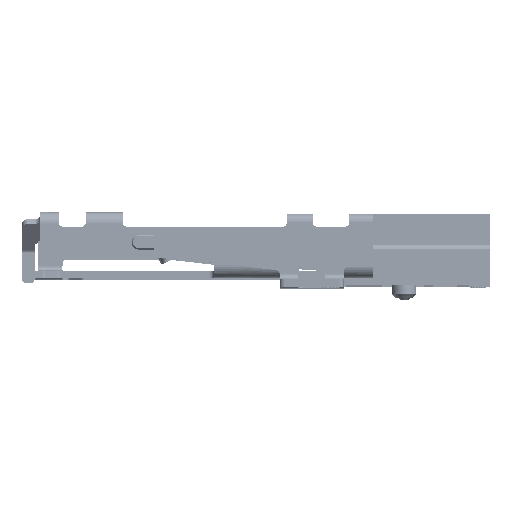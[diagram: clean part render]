
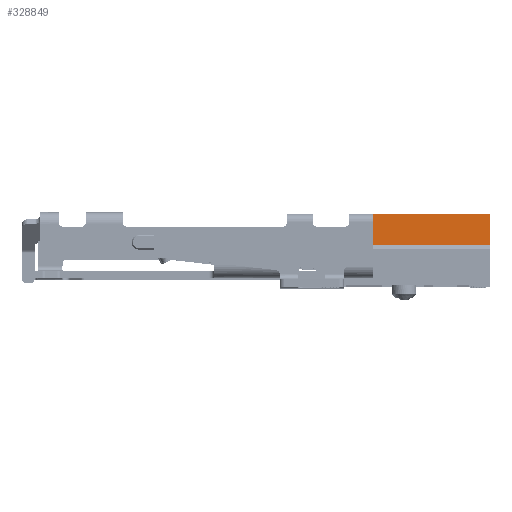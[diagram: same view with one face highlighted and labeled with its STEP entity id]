
A CAD part, top view. The second image highlights one B-rep face of the part: STEP entity #328849.
In plain terms, the highlighted planar face has unit normal (0, 0, 1).
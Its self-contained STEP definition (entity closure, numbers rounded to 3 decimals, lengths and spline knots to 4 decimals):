
#277357=DIRECTION('',(0.,-1.,0.));
#277358=VECTOR('',#277357,1.7);
#277359=CARTESIAN_POINT('',(-5.4,3.9,31.9));
#277360=LINE('',#277359,#277358);
#278549=DIRECTION('',(1.,0.,0.));
#278550=VECTOR('',#278549,6.4);
#278551=CARTESIAN_POINT('',(-5.4,3.9,31.9));
#278552=LINE('',#278551,#278550);
#312637=DIRECTION('',(1.,0.,0.));
#312638=VECTOR('',#312637,6.4);
#312639=CARTESIAN_POINT('',(-5.4,2.2,31.9));
#312640=LINE('',#312639,#312638);
#312641=DIRECTION('',(0.,1.,0.));
#312642=VECTOR('',#312641,1.7);
#312643=CARTESIAN_POINT('',(1.,2.2,31.9));
#312644=LINE('',#312643,#312642);
#315890=CARTESIAN_POINT('',(-5.4,3.9,31.9));
#315891=CARTESIAN_POINT('',(-5.4,2.2,31.9));
#315892=VERTEX_POINT('',#315890);
#315893=VERTEX_POINT('',#315891);
#316484=CARTESIAN_POINT('',(1.,3.9,31.9));
#316485=VERTEX_POINT('',#316484);
#316486=CARTESIAN_POINT('',(1.,2.2,31.9));
#316487=VERTEX_POINT('',#316486);
#328835=CARTESIAN_POINT('',(-2.2,3.05,31.9));
#328836=DIRECTION('',(0.,0.,1.));
#328837=DIRECTION('',(0.,-1.,0.));
#328838=AXIS2_PLACEMENT_3D('',#328835,#328836,#328837);
#328839=PLANE('',#328838);
#328841=ORIENTED_EDGE('',*,*,#328840,.T.);
#328843=ORIENTED_EDGE('',*,*,#328842,.F.);
#328845=ORIENTED_EDGE('',*,*,#328844,.F.);
#328846=ORIENTED_EDGE('',*,*,#328101,.F.);
#328847=EDGE_LOOP('',(#328841,#328843,#328845,#328846));
#328848=FACE_OUTER_BOUND('',#328847,.F.);
#328849=ADVANCED_FACE('',(#328848),#328839,.T.);
#328101=EDGE_CURVE('',#315892,#315893,#277360,.T.);
#328840=EDGE_CURVE('',#315892,#316485,#278552,.T.);
#328842=EDGE_CURVE('',#316487,#316485,#312644,.T.);
#328844=EDGE_CURVE('',#315893,#316487,#312640,.T.);
